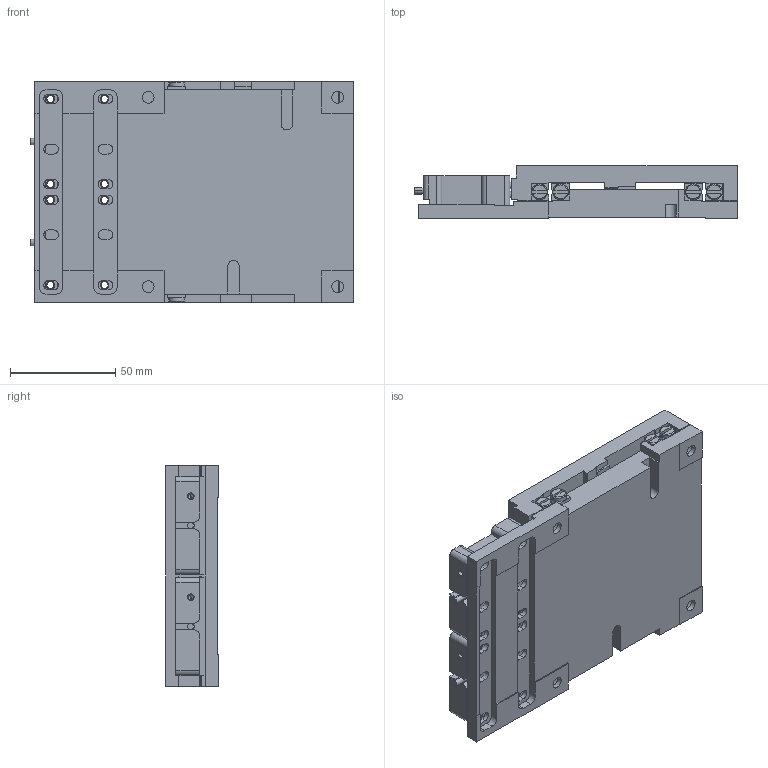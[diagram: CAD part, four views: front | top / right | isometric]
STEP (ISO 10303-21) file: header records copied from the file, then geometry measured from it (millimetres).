
FILE_DESCRIPTION((''),'2;1');
FILE_NAME('MT105_30______________00011724_ASM','2016-08-26T',('profile'),(''),'PRO/ENGINEER BY PARAMETRIC TECHNOLOGY CORPORATION, 2015280','PRO/ENGINEER BY PARAMETRIC TECHNOLOGY CORPORATION, 2015280','');
FILE_SCHEMA(('CONFIG_CONTROL_DESIGN'));
Length unit declared in the file: millimetre
Products named in the file (4): MT105_BASIS___________00011722; MT105_SCHIEBER________00011723; KT_MOTOR_HR4_99_70039_00011718; MT105_30______________00011724_ASM
Assembly tree (4 placements, depth 2):
  MT105_30______________00011724_ASM
    MT105_BASIS___________00011722
    MT105_SCHIEBER________00011723
    KT_MOTOR_HR4_99_70039_00011718  x2
Bounding box: 153.4 x 25 x 105 mm (x, y, z)
Volume: 310166.9 mm3; surface area: 90999.8 mm2
Topology: 4 solids, 18 shells, 479 faces, 1372 edges, 905 vertices
Faces by surface type: plane 279, cylinder 170, cone 30
Entity records: 13576 total; most frequent: CARTESIAN_POINT 2502, DIRECTION 2317, ORIENTED_EDGE 2270, EDGE_CURVE 1165, VERTEX_POINT 775, AXIS2_PLACEMENT_3D 774, VECTOR 769, LINE 769
